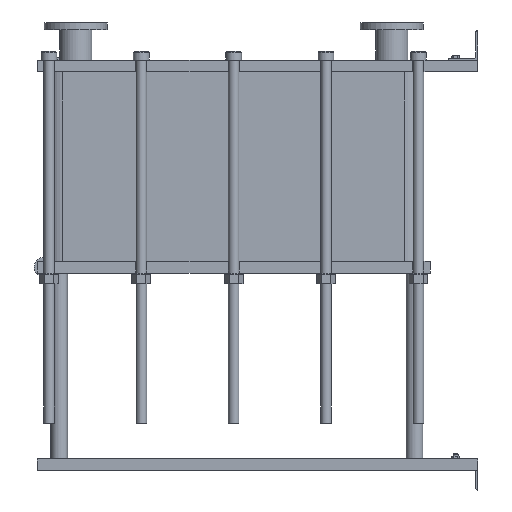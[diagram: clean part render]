
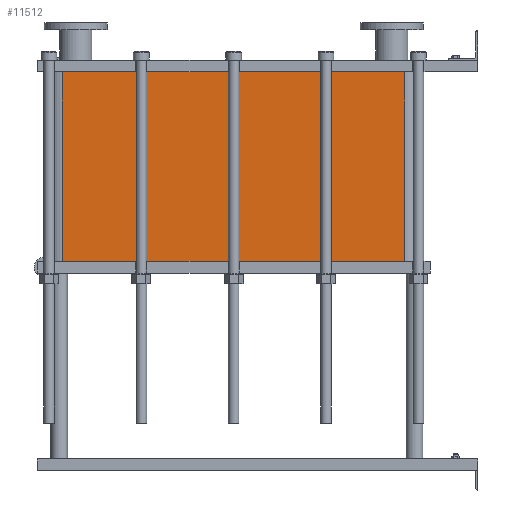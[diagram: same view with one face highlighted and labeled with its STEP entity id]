
A CAD part, left-side view. The second image highlights one B-rep face of the part: STEP entity #11512.
In plain terms, the highlighted planar face has unit normal (-1, 0, 0).
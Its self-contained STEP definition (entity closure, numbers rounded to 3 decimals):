
#1129=LINE('',#23232,#2102);
#1130=LINE('',#23236,#2103);
#1131=LINE('',#23238,#2104);
#1132=LINE('',#23239,#2105);
#2102=VECTOR('',#15887,10.);
#2103=VECTOR('',#15892,10.);
#2104=VECTOR('',#15893,10.);
#2105=VECTOR('',#15894,10.);
#3267=FACE_OUTER_BOUND('',#4093,.T.);
#4093=EDGE_LOOP('',(#10103,#10104,#10105,#10106));
#5642=VERTEX_POINT('',#23229);
#5643=VERTEX_POINT('',#23231);
#5644=VERTEX_POINT('',#23235);
#5645=VERTEX_POINT('',#23237);
#7159=EDGE_CURVE('',#5643,#5642,#1129,.T.);
#7161=EDGE_CURVE('',#5642,#5644,#1130,.T.);
#7162=EDGE_CURVE('',#5645,#5644,#1131,.T.);
#7163=EDGE_CURVE('',#5645,#5643,#1132,.T.);
#10103=ORIENTED_EDGE('',*,*,#7161,.T.);
#10104=ORIENTED_EDGE('',*,*,#7162,.F.);
#10105=ORIENTED_EDGE('',*,*,#7163,.T.);
#10106=ORIENTED_EDGE('',*,*,#7159,.T.);
#10857=PLANE('',#12751);
#11512=ADVANCED_FACE('',(#3267),#10857,.T.);
#12751=AXIS2_PLACEMENT_3D('',#23234,#15890,#15891);
#15887=DIRECTION('',(0.,0.,-1.));
#15890=DIRECTION('center_axis',(-1.,0.,0.));
#15891=DIRECTION('ref_axis',(0.,1.,0.));
#15892=DIRECTION('',(0.,-1.,0.));
#15893=DIRECTION('',(0.,0.,-1.));
#15894=DIRECTION('',(0.,1.,0.));
#23229=CARTESIAN_POINT('',(-200.,1414.,-645.15));
#23231=CARTESIAN_POINT('',(-200.,1414.,0.));
#23232=CARTESIAN_POINT('',(-200.,1414.,0.));
#23234=CARTESIAN_POINT('Origin',(-200.,248.,0.));
#23235=CARTESIAN_POINT('',(-200.,248.,-645.15));
#23236=CARTESIAN_POINT('',(-200.,539.5,-645.15));
#23237=CARTESIAN_POINT('',(-200.,248.,0.));
#23238=CARTESIAN_POINT('',(-200.,248.,0.));
#23239=CARTESIAN_POINT('',(-200.,248.,0.));
